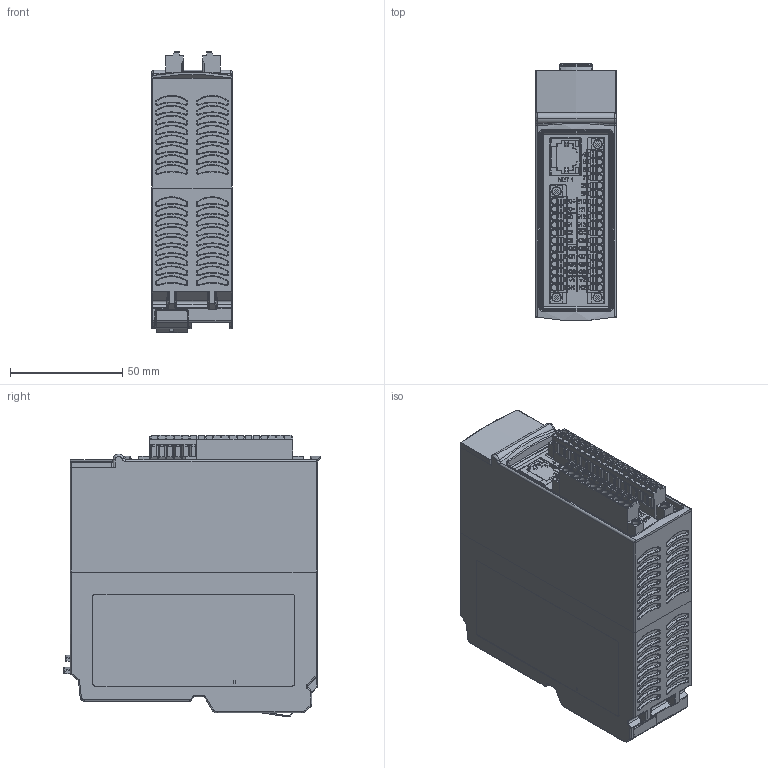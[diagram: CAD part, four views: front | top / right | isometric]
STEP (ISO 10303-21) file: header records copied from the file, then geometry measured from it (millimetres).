
FILE_DESCRIPTION (( 'STEP AP214' ), '1' );
FILE_NAME ('Montagem5.STEP', '2021-03-19T13:07:50', ( 'altus' ), ( '' ), 'SwSTEP 2.0', 'SolidWorks 2011', '' );
FILE_SCHEMA (( 'AUTOMOTIVE_DESIGN' ));
Length unit declared in the file: millimetre
Products named in the file (6): 00.301.787-6(LEDs ON); 01.250.187-4(Serigrafia); 00.303.115-1; 00.303.113-5; NX8000_201307081; Montagem5
Assembly tree (5 placements, depth 2):
  Montagem5
    00.303.113-5
    00.301.787-6(LEDs ON)
    NX8000_201307081
    00.303.115-1
    01.250.187-4(Serigrafia)
Bounding box: 36 x 114.46 x 125.62 mm (x, y, z)
Volume: 416676.7 mm3; surface area: 77012.8 mm2
Topology: 13 solids, 15 shells, 4707 faces, 12322 edges, 7937 vertices
Faces by surface type: plane 1993, bspline 1672, cylinder 759, cone 283
Entity records: 192185 total; most frequent: CARTESIAN_POINT 62162, ORIENTED_EDGE 24632, DIRECTION 16892, EDGE_CURVE 12316, VERTEX_POINT 7937, LINE 6500, VECTOR 6500, AXIS2_PLACEMENT_3D 5196
